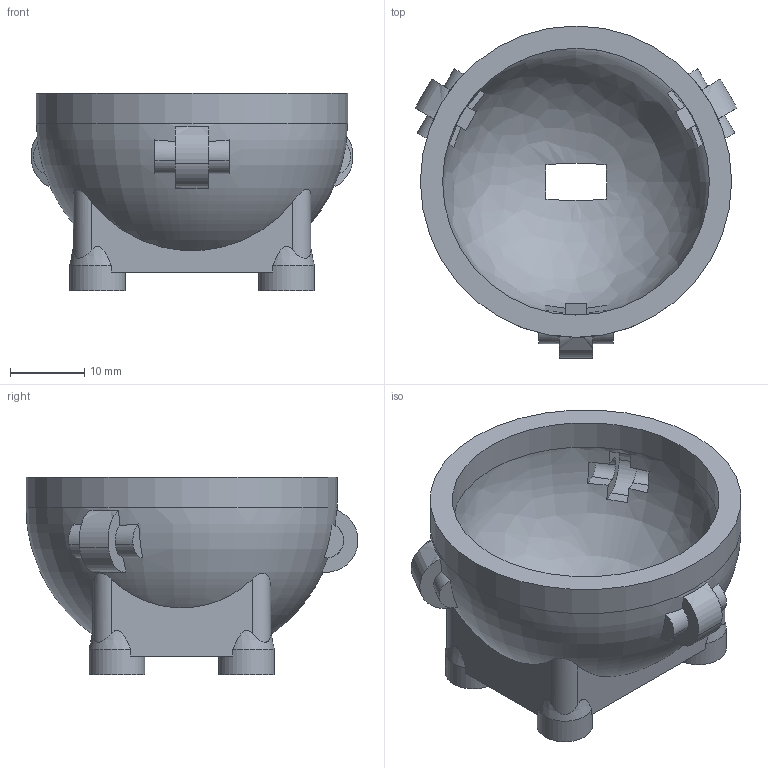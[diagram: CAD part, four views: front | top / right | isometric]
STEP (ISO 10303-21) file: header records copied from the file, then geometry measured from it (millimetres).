
FILE_DESCRIPTION(('Open CASCADE Model'),'2;1');
FILE_NAME('Open CASCADE Shape Model','2026-06-04T07:57:14',('Author'),( 'Open CASCADE'),'Open CASCADE STEP processor 7.6','Open CASCADE 7.6' ,'Unknown');
FILE_SCHEMA(('AP242_MANAGED_MODEL_BASED_3D_ENGINEERING_MIM_LF. {1 0 10303 442 1 1 4 }'));
Length unit declared in the file: millimetre
Products named in the file (1): Open CASCADE STEP translator 7.6 1
Bounding box: 43.43 x 44.78 x 26.6 mm (x, y, z)
Volume: 10659.7 mm3; surface area: 7849 mm2
Topology: 1 solids, 1 shells, 125 faces, 336 edges, 224 vertices
Faces by surface type: plane 61, extrusion 36, cylinder 18, bspline 4, cone 4, revolution 2
Full cylindrical faces by diameter (mm): 3.5 x4, 7.5 x4, 36 x1, 42 x1
Entity records: 19613 total; most frequent: CARTESIAN_POINT 13303, DIRECTION 1020, ORIENTED_EDGE 672, PCURVE 672, DEFINITIONAL_REPRESENTATION 672, VECTOR 506, LINE 470, B_SPLINE_CURVE_WITH_KNOTS 356
